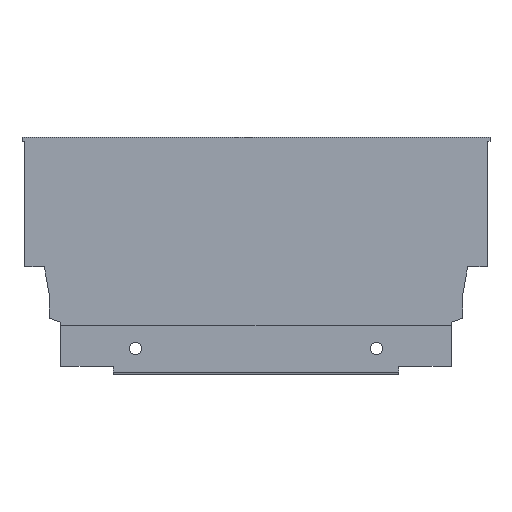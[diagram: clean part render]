
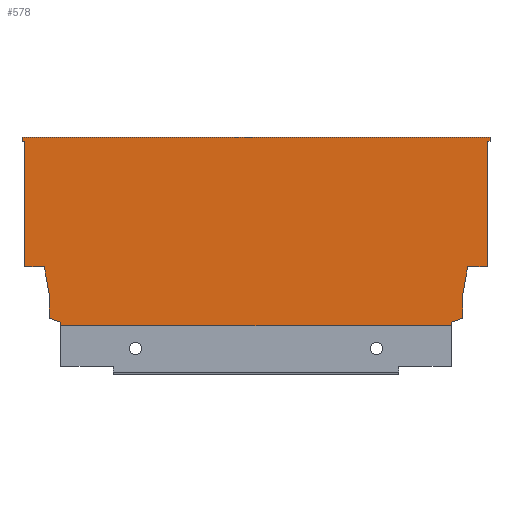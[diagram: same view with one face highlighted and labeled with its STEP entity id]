
A CAD part, top view. The second image highlights one B-rep face of the part: STEP entity #578.
In plain terms, the highlighted planar face has unit normal (0, 0, 1).
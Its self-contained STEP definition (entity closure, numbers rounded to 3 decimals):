
#13 = CARTESIAN_POINT ( 'NONE',  ( -167., 0., 7.5 ) ) ;
#14 = DIRECTION ( 'NONE',  ( 0., -1., 0. ) ) ;
#16 = CARTESIAN_POINT ( 'NONE',  ( -167., 68., 7.5 ) ) ;
#18 = CARTESIAN_POINT ( 'NONE',  ( -159.94, 21.2, 7.5 ) ) ;
#19 = DIRECTION ( 'NONE',  ( 1., 0., 0. ) ) ;
#20 = CARTESIAN_POINT ( 'NONE',  ( -168., 66.5, 7.5 ) ) ;
#21 = DIRECTION ( 'NONE',  ( -0.174, 0.985, 0. ) ) ;
#22 = DIRECTION ( 'NONE',  ( 1., 0., 0. ) ) ;
#44 = CARTESIAN_POINT ( 'NONE',  ( 0., 0., 7.5 ) ) ;
#45 = DIRECTION ( 'NONE',  ( 0., -1., 0. ) ) ;
#70 = CARTESIAN_POINT ( 'NONE',  ( -168., 66.5, 7.5 ) ) ;
#78 = DIRECTION ( 'NONE',  ( 0., 1., 0. ) ) ;
#80 = CARTESIAN_POINT ( 'NONE',  ( -158.1, 2.64, 7.5 ) ) ;
#81 = CARTESIAN_POINT ( 'NONE',  ( -172., 21.2, 7.5 ) ) ;
#82 = DIRECTION ( 'NONE',  ( -1., 0., 0. ) ) ;
#88 = CARTESIAN_POINT ( 'NONE',  ( -167., 0., 7.5 ) ) ;
#89 = DIRECTION ( 'NONE',  ( 1., 0., 0. ) ) ;
#90 = CARTESIAN_POINT ( 'NONE',  ( -158.1, 10.765, 7.5 ) ) ;
#91 = DIRECTION ( 'NONE',  ( 0., 1., 0. ) ) ;
#92 = CARTESIAN_POINT ( 'NONE',  ( -153.996, 1.146, 7.5 ) ) ;
#94 = DIRECTION ( 'NONE',  ( -0.94, 0.342, 0. ) ) ;
#96 = DIRECTION ( 'NONE',  ( 0., 1., 0. ) ) ;
#98 = CARTESIAN_POINT ( 'NONE',  ( -8.9, 10.765, 7.5 ) ) ;
#99 = DIRECTION ( 'NONE',  ( 0., -1., 0. ) ) ;
#243 = PLANE ( 'NONE',  #1225 ) ;
#246 = CARTESIAN_POINT ( 'NONE',  ( -167., 0., 7.5 ) ) ;
#252 = DIRECTION ( 'NONE',  ( 0., 0., 1. ) ) ;
#253 = DIRECTION ( 'NONE',  ( 1., 0., 0. ) ) ;
#285 = CARTESIAN_POINT ( 'NONE',  ( -8.9, 2.64, 7.5 ) ) ;
#286 = CARTESIAN_POINT ( 'NONE',  ( -13.004, 1.146, 7.5 ) ) ;
#287 = DIRECTION ( 'NONE',  ( 0., -1., 0. ) ) ;
#288 = CARTESIAN_POINT ( 'NONE',  ( -7.06, 21.2, 7.5 ) ) ;
#289 = DIRECTION ( 'NONE',  ( -0.174, -0.985, 0. ) ) ;
#290 = CARTESIAN_POINT ( 'NONE',  ( 0., 21.2, 7.5 ) ) ;
#291 = DIRECTION ( 'NONE',  ( -0.94, -0.342, 0. ) ) ;
#293 = DIRECTION ( 'NONE',  ( -1., 0., 0. ) ) ;
#294 = CARTESIAN_POINT ( 'NONE',  ( 1., 66.5, 7.5 ) ) ;
#296 = CARTESIAN_POINT ( 'NONE',  ( 1., 68., 7.5 ) ) ;
#297 = DIRECTION ( 'NONE',  ( -1., 0., 0. ) ) ;
#301 = DIRECTION ( 'NONE',  ( 0., -1., 0. ) ) ;
#316 = CARTESIAN_POINT ( 'NONE',  ( -153.996, 1.146, 7.5 ) ) ;
#337 = CARTESIAN_POINT ( 'NONE',  ( 0., 66.5, 7.5 ) ) ;
#338 = CARTESIAN_POINT ( 'NONE',  ( -168., 66.5, 7.5 ) ) ;
#339 = CARTESIAN_POINT ( 'NONE',  ( -13.004, 1.146, 7.5 ) ) ;
#342 = CARTESIAN_POINT ( 'NONE',  ( -8.9, 10.765, 7.5 ) ) ;
#346 = CARTESIAN_POINT ( 'NONE',  ( 1., 66.5, 7.5 ) ) ;
#348 = CARTESIAN_POINT ( 'NONE',  ( -7.06, 21.2, 7.5 ) ) ;
#352 = CARTESIAN_POINT ( 'NONE',  ( -8.9, 2.64, 7.5 ) ) ;
#366 = CARTESIAN_POINT ( 'NONE',  ( -158.1, 10.765, 7.5 ) ) ;
#381 = VERTEX_POINT ( 'NONE', #471 ) ;
#384 = VERTEX_POINT ( 'NONE', #479 ) ;
#385 = VERTEX_POINT ( 'NONE', #480 ) ;
#386 = VERTEX_POINT ( 'NONE', #481 ) ;
#390 = VERTEX_POINT ( 'NONE', #485 ) ;
#391 = VERTEX_POINT ( 'NONE', #486 ) ;
#393 = VERTEX_POINT ( 'NONE', #488 ) ;
#394 = VERTEX_POINT ( 'NONE', #489 ) ;
#397 = VERTEX_POINT ( 'NONE', #492 ) ;
#403 = VERTEX_POINT ( 'NONE', #366 ) ;
#406 = VERTEX_POINT ( 'NONE', #338 ) ;
#407 = VERTEX_POINT ( 'NONE', #337 ) ;
#418 = VERTEX_POINT ( 'NONE', #352 ) ;
#422 = VERTEX_POINT ( 'NONE', #348 ) ;
#424 = VERTEX_POINT ( 'NONE', #346 ) ;
#428 = VERTEX_POINT ( 'NONE', #342 ) ;
#429 = VERTEX_POINT ( 'NONE', #339 ) ;
#445 = VERTEX_POINT ( 'NONE', #316 ) ;
#471 = CARTESIAN_POINT ( 'NONE',  ( -167., 66.5, 7.5 ) ) ;
#479 = CARTESIAN_POINT ( 'NONE',  ( -168., 68., 7.5 ) ) ;
#480 = CARTESIAN_POINT ( 'NONE',  ( -153.996, 0., 7.5 ) ) ;
#481 = CARTESIAN_POINT ( 'NONE',  ( -158.1, 2.64, 7.5 ) ) ;
#485 = CARTESIAN_POINT ( 'NONE',  ( 1., 68., 7.5 ) ) ;
#486 = CARTESIAN_POINT ( 'NONE',  ( -13.004, 0., 7.5 ) ) ;
#488 = CARTESIAN_POINT ( 'NONE',  ( -167., 21.2, 7.5 ) ) ;
#489 = CARTESIAN_POINT ( 'NONE',  ( -159.94, 21.2, 7.5 ) ) ;
#492 = CARTESIAN_POINT ( 'NONE',  ( 0., 21.2, 7.5 ) ) ;
#500 = EDGE_CURVE ( 'NONE', #381, #393, #1063, .T. ) ;
#503 = EDGE_CURVE ( 'NONE', #384, #390, #1061, .T. ) ;
#504 = EDGE_CURVE ( 'NONE', #403, #394, #1062, .T. ) ;
#505 = EDGE_CURVE ( 'NONE', #406, #381, #1067, .T. ) ;
#514 = EDGE_CURVE ( 'NONE', #407, #397, #1087, .T. ) ;
#530 = EDGE_CURVE ( 'NONE', #406, #384, #1114, .T. ) ;
#532 = EDGE_CURVE ( 'NONE', #394, #393, #1120, .T. ) ;
#535 = EDGE_CURVE ( 'NONE', #385, #391, #1126, .T. ) ;
#536 = EDGE_CURVE ( 'NONE', #386, #403, #1128, .T. ) ;
#537 = EDGE_CURVE ( 'NONE', #445, #386, #1124, .T. ) ;
#538 = EDGE_CURVE ( 'NONE', #385, #445, #1123, .T. ) ;
#539 = EDGE_CURVE ( 'NONE', #428, #418, #1134, .T. ) ;
#578 = ADVANCED_FACE ( 'NONE', ( #1179 ), #243, .T. ) ;
#598 = EDGE_LOOP ( 'NONE', ( #948, #949, #950, #951, #952, #953, #954, #955, #956, #957, #958, #959, #960, #961, #962, #963, #964, #965 ) ) ;
#758 = EDGE_CURVE ( 'NONE', #429, #391, #1186, .T. ) ;
#759 = EDGE_CURVE ( 'NONE', #422, #428, #1193, .T. ) ;
#760 = EDGE_CURVE ( 'NONE', #418, #429, #1191, .T. ) ;
#761 = EDGE_CURVE ( 'NONE', #397, #422, #1184, .T. ) ;
#763 = EDGE_CURVE ( 'NONE', #424, #407, #1197, .T. ) ;
#765 = EDGE_CURVE ( 'NONE', #390, #424, #1199, .T. ) ;
#948 = ORIENTED_EDGE ( 'NONE', *, *, #503, .F. ) ;
#949 = ORIENTED_EDGE ( 'NONE', *, *, #530, .F. ) ;
#950 = ORIENTED_EDGE ( 'NONE', *, *, #505, .T. ) ;
#951 = ORIENTED_EDGE ( 'NONE', *, *, #500, .T. ) ;
#952 = ORIENTED_EDGE ( 'NONE', *, *, #532, .F. ) ;
#953 = ORIENTED_EDGE ( 'NONE', *, *, #504, .F. ) ;
#954 = ORIENTED_EDGE ( 'NONE', *, *, #536, .F. ) ;
#955 = ORIENTED_EDGE ( 'NONE', *, *, #537, .F. ) ;
#956 = ORIENTED_EDGE ( 'NONE', *, *, #538, .F. ) ;
#957 = ORIENTED_EDGE ( 'NONE', *, *, #535, .T. ) ;
#958 = ORIENTED_EDGE ( 'NONE', *, *, #758, .F. ) ;
#959 = ORIENTED_EDGE ( 'NONE', *, *, #760, .F. ) ;
#960 = ORIENTED_EDGE ( 'NONE', *, *, #539, .F. ) ;
#961 = ORIENTED_EDGE ( 'NONE', *, *, #759, .F. ) ;
#962 = ORIENTED_EDGE ( 'NONE', *, *, #761, .F. ) ;
#963 = ORIENTED_EDGE ( 'NONE', *, *, #514, .F. ) ;
#964 = ORIENTED_EDGE ( 'NONE', *, *, #763, .F. ) ;
#965 = ORIENTED_EDGE ( 'NONE', *, *, #765, .F. ) ;
#1061 = LINE ( 'NONE', #16, #1068 ) ;
#1062 = LINE ( 'NONE', #18, #1069 ) ;
#1063 = LINE ( 'NONE', #13, #1064 ) ;
#1064 = VECTOR ( 'NONE', #14, 1000. ) ;
#1067 = LINE ( 'NONE', #20, #1071 ) ;
#1068 = VECTOR ( 'NONE', #19, 1000. ) ;
#1069 = VECTOR ( 'NONE', #21, 1000. ) ;
#1071 = VECTOR ( 'NONE', #22, 1000. ) ;
#1087 = LINE ( 'NONE', #44, #1088 ) ;
#1088 = VECTOR ( 'NONE', #45, 1000. ) ;
#1114 = LINE ( 'NONE', #70, #1116 ) ;
#1116 = VECTOR ( 'NONE', #78, 1000. ) ;
#1120 = LINE ( 'NONE', #81, #1121 ) ;
#1121 = VECTOR ( 'NONE', #82, 1000. ) ;
#1123 = LINE ( 'NONE', #92, #1132 ) ;
#1124 = LINE ( 'NONE', #80, #1130 ) ;
#1126 = LINE ( 'NONE', #88, #1127 ) ;
#1127 = VECTOR ( 'NONE', #89, 1000. ) ;
#1128 = LINE ( 'NONE', #90, #1129 ) ;
#1129 = VECTOR ( 'NONE', #91, 1000. ) ;
#1130 = VECTOR ( 'NONE', #94, 1000. ) ;
#1132 = VECTOR ( 'NONE', #96, 1000. ) ;
#1134 = LINE ( 'NONE', #98, #1135 ) ;
#1135 = VECTOR ( 'NONE', #99, 1000. ) ;
#1179 = FACE_OUTER_BOUND ( 'NONE', #598, .T. ) ;
#1184 = LINE ( 'NONE', #290, #1198 ) ;
#1186 = LINE ( 'NONE', #286, #1194 ) ;
#1191 = LINE ( 'NONE', #285, #1196 ) ;
#1193 = LINE ( 'NONE', #288, #1195 ) ;
#1194 = VECTOR ( 'NONE', #287, 1000. ) ;
#1195 = VECTOR ( 'NONE', #289, 1000. ) ;
#1196 = VECTOR ( 'NONE', #291, 1000. ) ;
#1197 = LINE ( 'NONE', #294, #1202 ) ;
#1198 = VECTOR ( 'NONE', #293, 1000. ) ;
#1199 = LINE ( 'NONE', #296, #1206 ) ;
#1202 = VECTOR ( 'NONE', #297, 1000. ) ;
#1206 = VECTOR ( 'NONE', #301, 1000. ) ;
#1225 = AXIS2_PLACEMENT_3D ( 'NONE', #246, #252, #253 ) ;
